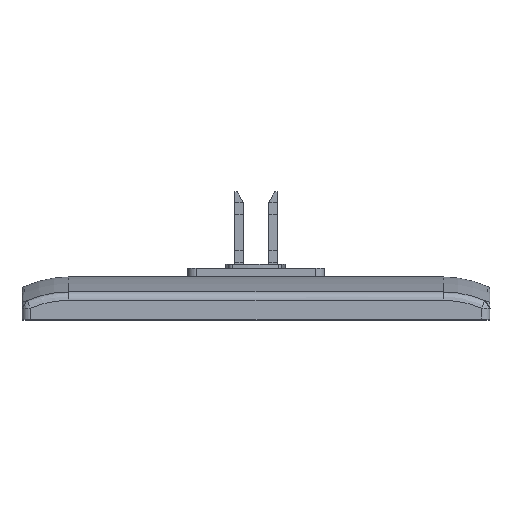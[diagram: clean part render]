
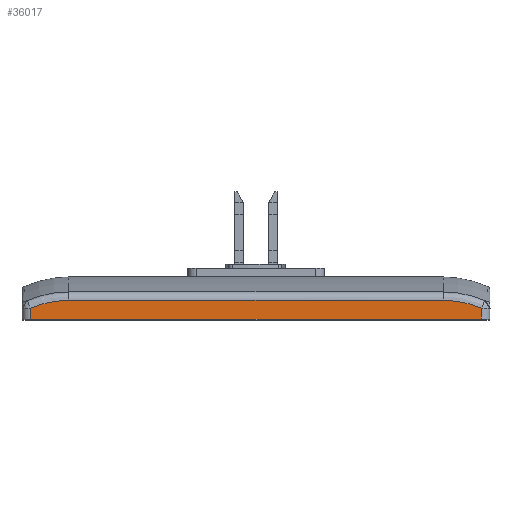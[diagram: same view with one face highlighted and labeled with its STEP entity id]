
A CAD part, top view. The second image highlights one B-rep face of the part: STEP entity #36017.
In plain terms, the highlighted planar face has unit normal (0, 0, 1).
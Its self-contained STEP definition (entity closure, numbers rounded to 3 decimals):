
#5910 = VERTEX_POINT ( 'NONE', #12943 ) ;
#5918 = VERTEX_POINT ( 'NONE', #12911 ) ;
#12911 = CARTESIAN_POINT ( 'NONE',  ( -10.433, 0., 11.811 ) ) ;
#12943 = CARTESIAN_POINT ( 'NONE',  ( -10.433, 0.506, 11.811 ) ) ;
#24385 = FACE_OUTER_BOUND ( 'NONE', #36018, .T. ) ;
#24504 = B_SPLINE_CURVE_WITH_KNOTS ( 'NONE', 3,
 ( #24618, #25234, #25233, #25232, #25231, #25229 ),
 .UNSPECIFIED., .F., .F.,
 ( 4, 2, 4 ),
 ( 0., 0.5, 1. ),
 .UNSPECIFIED. ) ;
#24618 = CARTESIAN_POINT ( 'NONE',  ( 8.661, 0.872, 11.811 ) ) ;
#24619 = DIRECTION ( 'NONE',  ( 0., -1., 0. ) ) ;
#25135 = CARTESIAN_POINT ( 'NONE',  ( -8.661, 0.872, 11.811 ) ) ;
#25136 = DIRECTION ( 'NONE',  ( 1., 0., 0. ) ) ;
#25138 = VECTOR ( 'NONE', #25136, 39.37 ) ;
#25141 = CARTESIAN_POINT ( 'NONE',  ( 0., 0.872, 11.811 ) ) ;
#25143 = LINE ( 'NONE', #25141, #25138 ) ;
#25229 = CARTESIAN_POINT ( 'NONE',  ( 10.433, 0.506, 11.811 ) ) ;
#25231 = CARTESIAN_POINT ( 'NONE',  ( 10.154, 0.626, 11.811 ) ) ;
#25232 = CARTESIAN_POINT ( 'NONE',  ( 9.863, 0.718, 11.811 ) ) ;
#25233 = CARTESIAN_POINT ( 'NONE',  ( 9.269, 0.841, 11.811 ) ) ;
#25234 = CARTESIAN_POINT ( 'NONE',  ( 8.965, 0.872, 11.811 ) ) ;
#25237 = CARTESIAN_POINT ( 'NONE',  ( -8.661, 0.872, 11.811 ) ) ;
#25240 = CARTESIAN_POINT ( 'NONE',  ( -8.965, 0.872, 11.811 ) ) ;
#25242 = CARTESIAN_POINT ( 'NONE',  ( -9.269, 0.841, 11.811 ) ) ;
#25243 = CARTESIAN_POINT ( 'NONE',  ( -9.863, 0.718, 11.811 ) ) ;
#25244 = CARTESIAN_POINT ( 'NONE',  ( -10.154, 0.626, 11.811 ) ) ;
#25245 = CARTESIAN_POINT ( 'NONE',  ( -10.433, 0.506, 11.811 ) ) ;
#25252 = B_SPLINE_CURVE_WITH_KNOTS ( 'NONE', 3,
 ( #25245, #25244, #25243, #25242, #25240, #25237 ),
 .UNSPECIFIED., .F., .F.,
 ( 4, 2, 4 ),
 ( 0., 0.5, 1. ),
 .UNSPECIFIED. ) ;
#29164 = AXIS2_PLACEMENT_3D ( 'NONE', #29172, #29168, #24619 ) ;
#29168 = DIRECTION ( 'NONE',  ( 0., 0., 1. ) ) ;
#29172 = CARTESIAN_POINT ( 'NONE',  ( -10.85, 0.91, 11.811 ) ) ;
#29421 = CARTESIAN_POINT ( 'NONE',  ( 8.661, 0.872, 11.811 ) ) ;
#29530 = PLANE ( 'NONE',  #29164 ) ;
#29539 = CARTESIAN_POINT ( 'NONE',  ( 10.433, 0.506, 11.811 ) ) ;
#34941 = B_SPLINE_CURVE_WITH_KNOTS ( 'NONE', 3,
 ( #34969, #34968, #34967, #34966 ),
 .UNSPECIFIED., .F., .F.,
 ( 4, 4 ),
 ( 0., 1. ),
 .UNSPECIFIED. ) ;
#34954 = CARTESIAN_POINT ( 'NONE',  ( 10.433, 0.506, 11.811 ) ) ;
#34955 = CARTESIAN_POINT ( 'NONE',  ( 10.433, 0.338, 11.811 ) ) ;
#34956 = CARTESIAN_POINT ( 'NONE',  ( 10.433, 0.169, 11.811 ) ) ;
#34957 = CARTESIAN_POINT ( 'NONE',  ( 10.433, 0., 11.811 ) ) ;
#34959 = B_SPLINE_CURVE_WITH_KNOTS ( 'NONE', 3,
 ( #34957, #34956, #34955, #34954 ),
 .UNSPECIFIED., .F., .F.,
 ( 4, 4 ),
 ( 0., 1. ),
 .UNSPECIFIED. ) ;
#34961 = CARTESIAN_POINT ( 'NONE',  ( 10.433, 0., 11.811 ) ) ;
#34962 = DIRECTION ( 'NONE',  ( 1., 0., 0. ) ) ;
#34963 = VECTOR ( 'NONE', #34962, 39.37 ) ;
#34964 = CARTESIAN_POINT ( 'NONE',  ( 0., 0., 11.811 ) ) ;
#34965 = LINE ( 'NONE', #34964, #34963 ) ;
#34966 = CARTESIAN_POINT ( 'NONE',  ( -10.433, 0., 11.811 ) ) ;
#34967 = CARTESIAN_POINT ( 'NONE',  ( -10.433, 0.169, 11.811 ) ) ;
#34968 = CARTESIAN_POINT ( 'NONE',  ( -10.433, 0.338, 11.811 ) ) ;
#34969 = CARTESIAN_POINT ( 'NONE',  ( -10.433, 0.506, 11.811 ) ) ;
#35887 = EDGE_CURVE ( 'NONE', #35890, #35960, #25143, .T. ) ;
#35890 = VERTEX_POINT ( 'NONE', #25135 ) ;
#35899 = EDGE_CURVE ( 'NONE', #5910, #35890, #25252, .T. ) ;
#35960 = VERTEX_POINT ( 'NONE', #29421 ) ;
#36009 = VERTEX_POINT ( 'NONE', #29539 ) ;
#36015 = EDGE_CURVE ( 'NONE', #35960, #36009, #24504, .T. ) ;
#36017 = ADVANCED_FACE ( 'NONE', ( #24385 ), #29530, .T. ) ;
#36018 = EDGE_LOOP ( 'NONE', ( #36019, #36020, #36021, #36184, #36187, #36189 ) ) ;
#36019 = ORIENTED_EDGE ( 'NONE', *, *, #35887, .F. ) ;
#36020 = ORIENTED_EDGE ( 'NONE', *, *, #35899, .F. ) ;
#36021 = ORIENTED_EDGE ( 'NONE', *, *, #36183, .T. ) ;
#36183 = EDGE_CURVE ( 'NONE', #5910, #5918, #34941, .T. ) ;
#36184 = ORIENTED_EDGE ( 'NONE', *, *, #36185, .T. ) ;
#36185 = EDGE_CURVE ( 'NONE', #5918, #36186, #34965, .T. ) ;
#36186 = VERTEX_POINT ( 'NONE', #34961 ) ;
#36187 = ORIENTED_EDGE ( 'NONE', *, *, #36188, .T. ) ;
#36188 = EDGE_CURVE ( 'NONE', #36186, #36009, #34959, .T. ) ;
#36189 = ORIENTED_EDGE ( 'NONE', *, *, #36015, .F. ) ;
